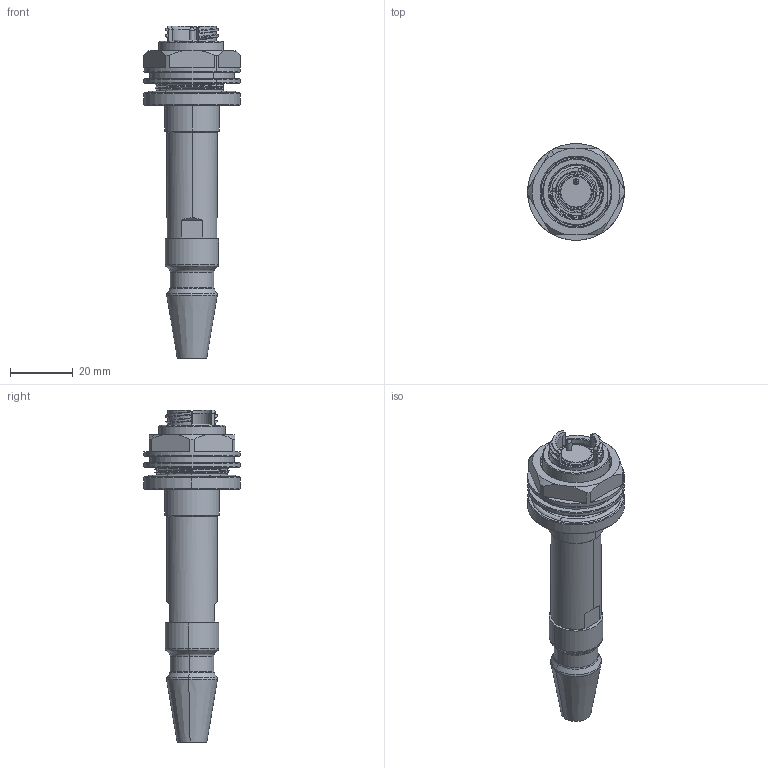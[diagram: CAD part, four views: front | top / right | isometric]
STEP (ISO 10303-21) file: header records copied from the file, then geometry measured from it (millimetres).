
FILE_DESCRIPTION (( 'STEP AP214' ), '1' );
FILE_NAME ('QMICRO-RJXX-XXXX-S95.STEP', '2025-05-02T23:45:27', ( '' ), ( '' ), 'SwSTEP 2.0', 'SolidWorks 2024', '' );
FILE_SCHEMA (( 'AUTOMOTIVE_DESIGN' ));
Length unit declared in the file: inch
Products named in the file (1): QMICRO-RJXX-XXXX-S95
Bounding box: 31 x 31 x 106.25 mm (x, y, z)
Volume: 24504.6 mm3; surface area: 13109.8 mm2
Topology: 1 solids, 2 shells, 304 faces, 792 edges, 504 vertices
Faces by surface type: cylinder 122, cone 68, plane 58, bspline 34, torus 22
Entity records: 17636 total; most frequent: CARTESIAN_POINT 10739, ORIENTED_EDGE 1584, DIRECTION 1315, EDGE_CURVE 792, AXIS2_PLACEMENT_3D 528, VERTEX_POINT 504, EDGE_LOOP 328, FACE_OUTER_BOUND 304
